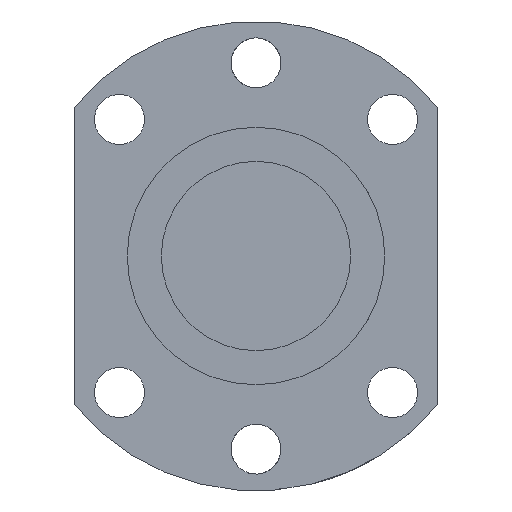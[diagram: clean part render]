
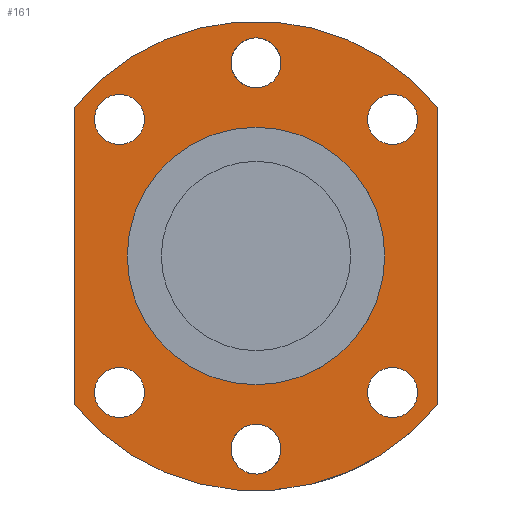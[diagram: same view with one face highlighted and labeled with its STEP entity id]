
A CAD part, front view. The second image highlights one B-rep face of the part: STEP entity #161.
In plain terms, the highlighted planar face has unit normal (0, -1, 0).
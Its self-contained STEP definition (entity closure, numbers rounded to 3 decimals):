
#98=LINE('',#885,#108);
#102=LINE('',#956,#112);
#108=VECTOR('',#693,1.);
#112=VECTOR('',#705,1.);
#135=PLANE('',#616);
#161=ADVANCED_FACE('',(#224,#225,#226,#227,#228,#229,#230,#231),#135,.F.);
#224=FACE_BOUND('',#297,.T.);
#225=FACE_BOUND('',#298,.T.);
#226=FACE_BOUND('',#299,.T.);
#227=FACE_BOUND('',#300,.T.);
#228=FACE_BOUND('',#301,.T.);
#229=FACE_BOUND('',#302,.T.);
#230=FACE_BOUND('',#303,.T.);
#231=FACE_BOUND('',#304,.T.);
#297=EDGE_LOOP('',(#387));
#298=EDGE_LOOP('',(#388));
#299=EDGE_LOOP('',(#389));
#300=EDGE_LOOP('',(#390));
#301=EDGE_LOOP('',(#391));
#302=EDGE_LOOP('',(#392));
#303=EDGE_LOOP('',(#393));
#304=EDGE_LOOP('',(#394,#395,#396,#397));
#387=ORIENTED_EDGE('',*,*,#517,.F.);
#388=ORIENTED_EDGE('',*,*,#518,.F.);
#389=ORIENTED_EDGE('',*,*,#519,.F.);
#390=ORIENTED_EDGE('',*,*,#520,.T.);
#391=ORIENTED_EDGE('',*,*,#521,.T.);
#392=ORIENTED_EDGE('',*,*,#522,.T.);
#393=ORIENTED_EDGE('',*,*,#523,.T.);
#394=ORIENTED_EDGE('',*,*,#497,.F.);
#395=ORIENTED_EDGE('',*,*,#508,.F.);
#396=ORIENTED_EDGE('',*,*,#505,.F.);
#397=ORIENTED_EDGE('',*,*,#501,.F.);
#453=VERTEX_POINT('',#877);
#454=VERTEX_POINT('',#878);
#457=VERTEX_POINT('',#886);
#460=VERTEX_POINT('',#951);
#469=VERTEX_POINT('',#975);
#470=VERTEX_POINT('',#977);
#471=VERTEX_POINT('',#979);
#472=VERTEX_POINT('',#981);
#473=VERTEX_POINT('',#983);
#474=VERTEX_POINT('',#985);
#475=VERTEX_POINT('',#987);
#497=EDGE_CURVE('',#453,#454,#546,.T.);
#501=EDGE_CURVE('',#454,#457,#98,.T.);
#505=EDGE_CURVE('',#457,#460,#548,.T.);
#508=EDGE_CURVE('',#460,#453,#102,.T.);
#517=EDGE_CURVE('',#469,#469,#557,.T.);
#518=EDGE_CURVE('',#470,#470,#558,.T.);
#519=EDGE_CURVE('',#471,#471,#559,.T.);
#520=EDGE_CURVE('',#472,#472,#560,.T.);
#521=EDGE_CURVE('',#473,#473,#561,.T.);
#522=EDGE_CURVE('',#474,#474,#562,.T.);
#523=EDGE_CURVE('',#475,#475,#563,.T.);
#546=CIRCLE('',#593,31.);
#548=CIRCLE('',#597,31.);
#557=CIRCLE('',#609,3.3);
#558=CIRCLE('',#610,3.3);
#559=CIRCLE('',#611,3.3);
#560=CIRCLE('',#612,3.3);
#561=CIRCLE('',#613,3.3);
#562=CIRCLE('',#614,3.3);
#563=CIRCLE('',#615,17.);
#593=AXIS2_PLACEMENT_3D('',#876,#685,#686);
#597=AXIS2_PLACEMENT_3D('',#950,#698,#699);
#609=AXIS2_PLACEMENT_3D('',#974,#725,#726);
#610=AXIS2_PLACEMENT_3D('',#976,#727,#728);
#611=AXIS2_PLACEMENT_3D('',#978,#729,#730);
#612=AXIS2_PLACEMENT_3D('',#980,#731,#732);
#613=AXIS2_PLACEMENT_3D('',#982,#733,#734);
#614=AXIS2_PLACEMENT_3D('',#984,#735,#736);
#615=AXIS2_PLACEMENT_3D('',#986,#737,#738);
#616=AXIS2_PLACEMENT_3D('',#988,#739,#740);
#685=DIRECTION('',(0.,1.,0.));
#686=DIRECTION('',(1.,0.,0.));
#693=DIRECTION('',(0.,0.,-1.));
#698=DIRECTION('',(0.,1.,0.));
#699=DIRECTION('',(1.,0.,0.));
#705=DIRECTION('',(0.,0.,1.));
#725=DIRECTION('',(0.,-1.,0.));
#726=DIRECTION('',(-1.,0.,0.));
#727=DIRECTION('',(0.,-1.,0.));
#728=DIRECTION('',(-0.707,0.,-0.707));
#729=DIRECTION('',(0.,-1.,0.));
#730=DIRECTION('',(0.,0.,-1.));
#731=DIRECTION('',(0.,1.,0.));
#732=DIRECTION('',(-1.,0.,0.));
#733=DIRECTION('',(0.,1.,0.));
#734=DIRECTION('',(-0.707,0.,0.707));
#735=DIRECTION('',(0.,1.,0.));
#736=DIRECTION('',(0.,0.,1.));
#737=DIRECTION('',(0.,1.,0.));
#738=DIRECTION('',(0.,0.,1.));
#739=DIRECTION('',(0.,1.,0.));
#740=DIRECTION('',(0.,0.,-1.));
#876=CARTESIAN_POINT('',(0.,-40.,0.));
#877=CARTESIAN_POINT('',(-24.,-40.,19.621));
#878=CARTESIAN_POINT('',(24.,-40.,19.621));
#885=CARTESIAN_POINT('',(24.,-40.,19.621));
#886=CARTESIAN_POINT('',(24.,-40.,-19.621));
#950=CARTESIAN_POINT('',(0.,-40.,0.));
#951=CARTESIAN_POINT('',(-24.,-40.,-19.621));
#956=CARTESIAN_POINT('',(-24.,-40.,-19.621));
#974=CARTESIAN_POINT('',(18.031,-40.,18.031));
#975=CARTESIAN_POINT('',(14.731,-40.,18.031));
#976=CARTESIAN_POINT('',(0.,-40.,25.5));
#977=CARTESIAN_POINT('',(-2.333,-40.,23.167));
#978=CARTESIAN_POINT('',(-18.031,-40.,18.031));
#979=CARTESIAN_POINT('',(-18.031,-40.,14.731));
#980=CARTESIAN_POINT('',(18.031,-40.,-18.031));
#981=CARTESIAN_POINT('',(14.731,-40.,-18.031));
#982=CARTESIAN_POINT('',(0.,-40.,-25.5));
#983=CARTESIAN_POINT('',(-2.333,-40.,-23.167));
#984=CARTESIAN_POINT('',(-18.031,-40.,-18.031));
#985=CARTESIAN_POINT('',(-18.031,-40.,-14.731));
#986=CARTESIAN_POINT('',(0.,-40.,0.));
#987=CARTESIAN_POINT('',(0.,-40.,17.));
#988=CARTESIAN_POINT('',(0.,-40.,0.));
